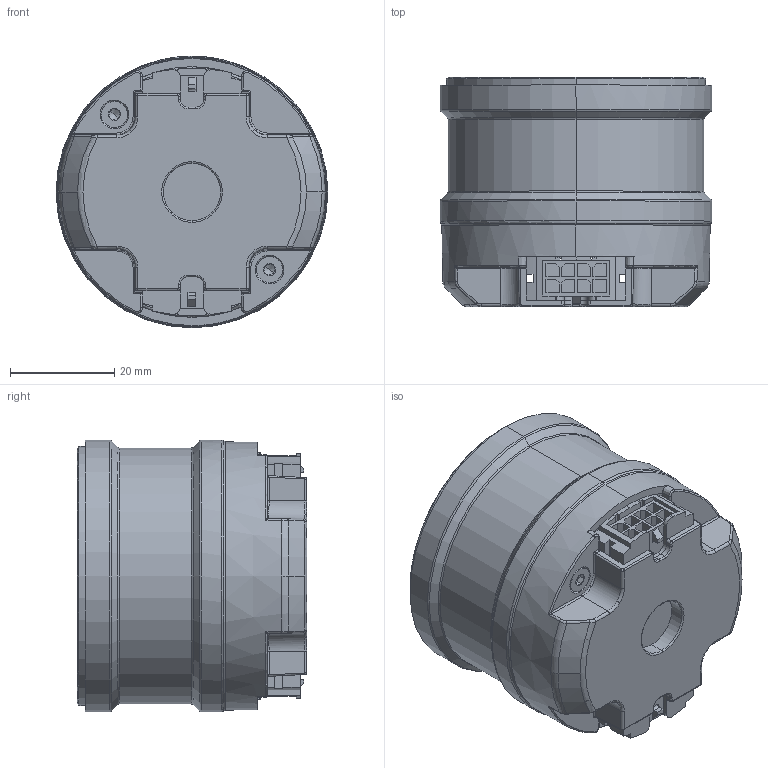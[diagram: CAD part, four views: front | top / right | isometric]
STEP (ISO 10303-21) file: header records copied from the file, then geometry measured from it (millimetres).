
FILE_DESCRIPTION (( 'STEP AP214' ), '1' );
FILE_NAME ('DD-3510_v2_2.STEP', '2019-05-07T10:37:21', ( 'Microsoft' ), ( 'Microsoft' ), 'SwSTEP 2.0', 'SolidWorks 2018', '' );
FILE_SCHEMA (( 'AUTOMOTIVE_DESIGN' ));
Length unit declared in the file: millimetre
Products named in the file (1): DD-3510_v2_2
Bounding box: 52 x 43.9 x 52 mm (x, y, z)
Volume: 66834.8 mm3; surface area: 38892.1 mm2
Topology: 11 solids, 11 shells, 1275 faces, 3262 edges, 2011 vertices
Faces by surface type: plane 840, cylinder 199, bspline 99, cone 90, torus 42, sphere 5
Entity records: 55196 total; most frequent: CARTESIAN_POINT 11461, ORIENTED_EDGE 6456, DIRECTION 5567, EDGE_CURVE 3228, LINE 2363, VECTOR 2363, VERTEX_POINT 2011, AXIS2_PLACEMENT_3D 1602
